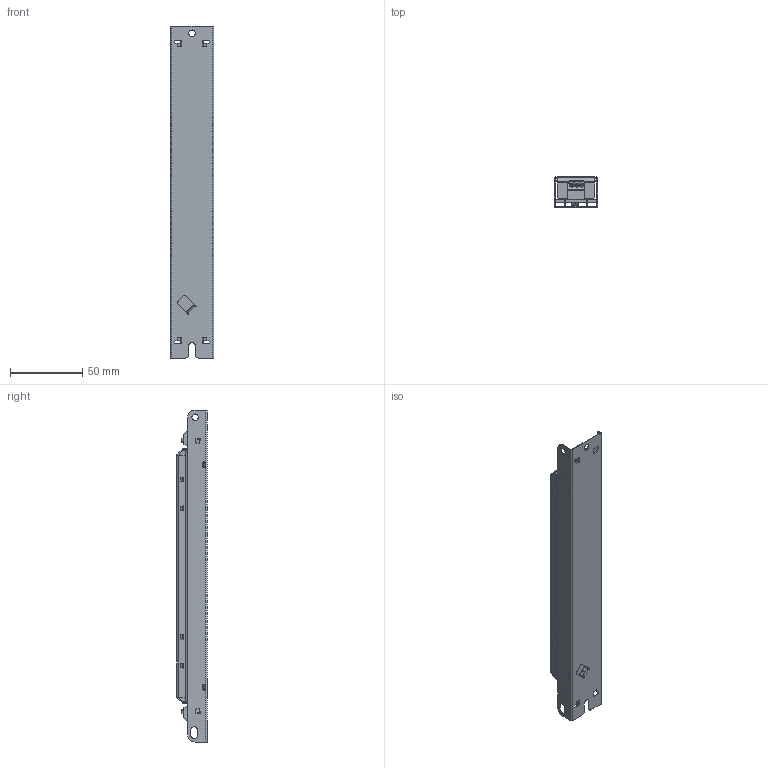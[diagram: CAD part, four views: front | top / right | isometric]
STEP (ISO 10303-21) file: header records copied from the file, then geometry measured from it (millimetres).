
FILE_DESCRIPTION (( 'STEP AP203' ), '1' );
FILE_NAME ('LL1x38-E-CC.STEP', '2015-05-26T10:19:38', ( '' ), ( '' ), 'SwSTEP 2.0', 'SolidWorks 2014', '' );
FILE_SCHEMA (( 'CONFIG_CONTROL_DESIGN' ));
Length unit declared in the file: millimetre
Products named in the file (5): 130757a; PCB_75728c; 130741b-230; WAGO_LIITIN_3N_250_203-1; LL1x38-E-CC
Assembly tree (5 placements, depth 2):
  LL1x38-E-CC
    130757a
    PCB_75728c
    130741b-230
    WAGO_LIITIN_3N_250_203-1  x2
Bounding box: 30 x 20.88 x 230 mm (x, y, z)
Volume: 23247.1 mm3; surface area: 59354.5 mm2
Topology: 5 solids, 5 shells, 1010 faces, 2648 edges, 1662 vertices
Faces by surface type: plane 526, cylinder 340, bspline 132, cone 12
Entity records: 31489 total; most frequent: CARTESIAN_POINT 10374, ORIENTED_EDGE 4570, DIRECTION 3865, EDGE_CURVE 2285, LINE 1485, VECTOR 1485, VERTEX_POINT 1423, AXIS2_PLACEMENT_3D 1190
